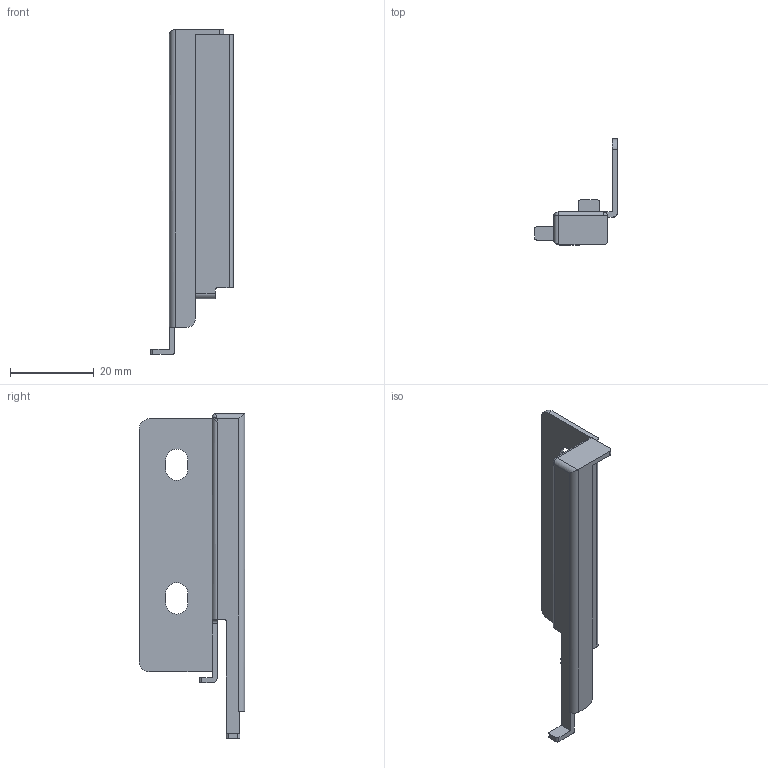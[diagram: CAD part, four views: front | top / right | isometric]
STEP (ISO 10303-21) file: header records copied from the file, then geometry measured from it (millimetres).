
FILE_DESCRIPTION (( 'STEP AP203' ), '1' );
FILE_NAME ('HT11031-R.STEP', '2020-07-21T02:56:52', ( '' ), ( '' ), 'SwSTEP 2.0', 'SolidWorks 2018', '' );
FILE_SCHEMA (( 'CONFIG_CONTROL_DESIGN' ));
Length unit declared in the file: millimetre
Products named in the file (1): HT11031-R
Bounding box: 19.8 x 25.3 x 77.7 mm (x, y, z)
Volume: 3255.7 mm3; surface area: 5807.9 mm2
Topology: 1 solids, 1 shells, 58 faces, 162 edges, 105 vertices
Faces by surface type: plane 32, cylinder 25, bspline 1
Entity records: 1996 total; most frequent: CARTESIAN_POINT 402, ORIENTED_EDGE 322, DIRECTION 315, EDGE_CURVE 161, VECTOR 111, LINE 111, VERTEX_POINT 105, AXIS2_PLACEMENT_3D 102
